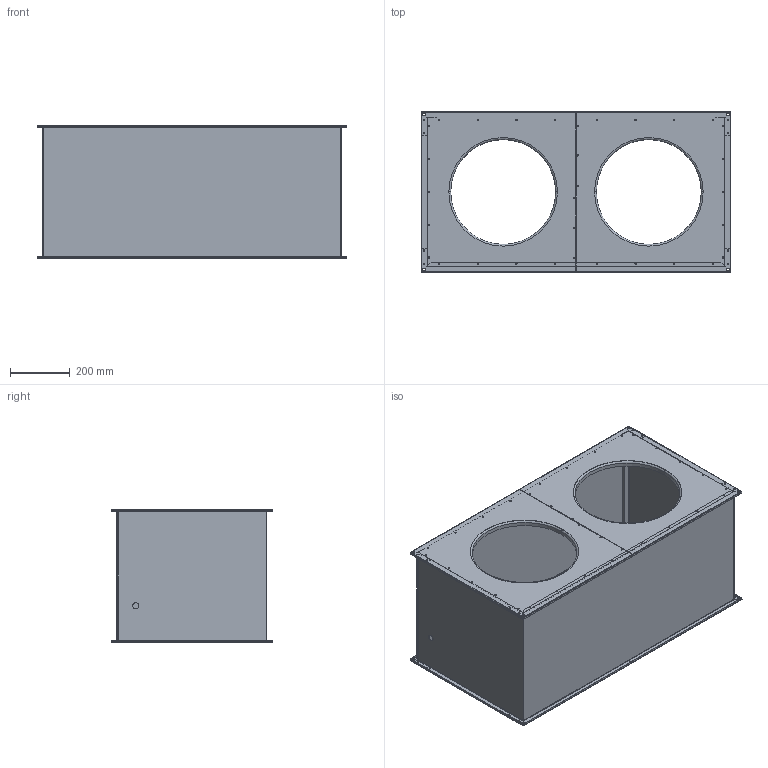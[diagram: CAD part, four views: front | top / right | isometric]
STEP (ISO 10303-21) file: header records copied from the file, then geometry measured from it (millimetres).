
FILE_DESCRIPTION (( 'STEP AP203' ), '1' );
FILE_NAME ('127730-00_ELKI7040E210.STEP', '2015-02-20T09:56:03', ( '' ), ( '' ), 'SwSTEP 2.0', 'SolidWorks 2012', '' );
FILE_SCHEMA (( 'CONFIG_CONTROL_DESIGN' ));
Length unit declared in the file: millimetre
Products named in the file (1): 127730-00_ELKI7040E210
Bounding box: 1038.6 x 538 x 446 mm (x, y, z)
Surface area: 4407933.7 mm2 (no closed solid volume)
Topology: 0 solids, 76 shells, 531 faces, 1812 edges, 1308 vertices
Faces by surface type: cylinder 365, plane 142, bspline 16, torus 8
Entity records: 22033 total; most frequent: CARTESIAN_POINT 5464, DIRECTION 3721, ORIENTED_EDGE 2788, EDGE_CURVE 1812, AXIS2_PLACEMENT_3D 1457, VERTEX_POINT 1308, CIRCLE 941, EDGE_LOOP 823
